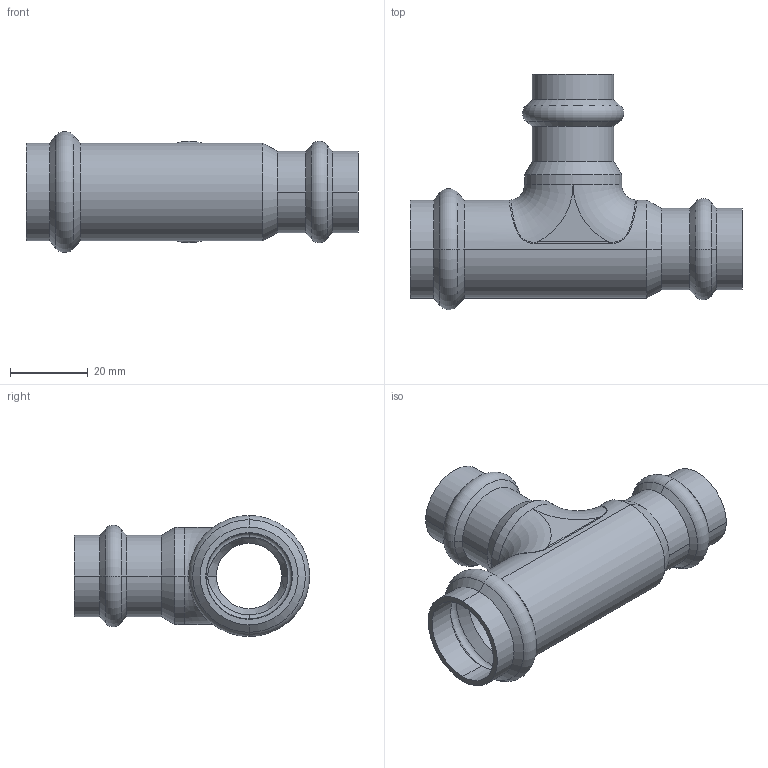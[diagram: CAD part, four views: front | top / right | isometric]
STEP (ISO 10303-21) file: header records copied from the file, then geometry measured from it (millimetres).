
FILE_DESCRIPTION (( 'STEP AP203' ), '1' );
FILE_NAME ('SP5130 Ø22-18-18.STEP', '2017-04-24T13:14:52', ( '' ), ( '' ), 'SwSTEP 2.0', 'SolidWorks 2016', '' );
FILE_SCHEMA (( 'CONFIG_CONTROL_DESIGN' ));
Length unit declared in the file: millimetre
Products named in the file (1): SP5130 Ø22-18-18
Bounding box: 85.5 x 60.6 x 31.2 mm (x, y, z)
Volume: 15903.6 mm3; surface area: 17656.5 mm2
Topology: 1 solids, 1 shells, 105 faces, 234 edges, 128 vertices
Faces by surface type: cylinder 37, cone 36, torus 20, bspline 6, plane 6
Entity records: 4363 total; most frequent: CARTESIAN_POINT 1948, DIRECTION 550, ORIENTED_EDGE 460, AXIS2_PLACEMENT_3D 238, EDGE_CURVE 230, CIRCLE 138, VERTEX_POINT 128, EDGE_LOOP 110
